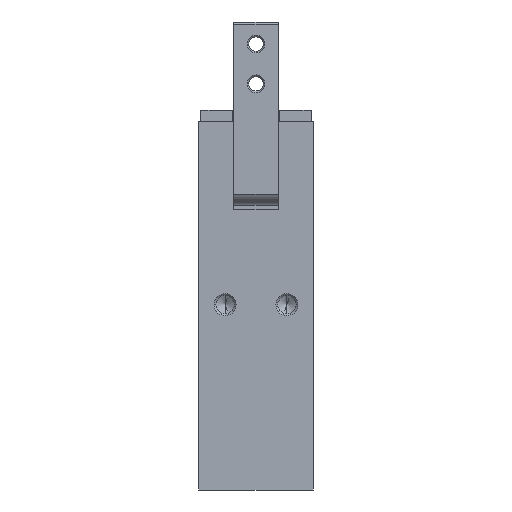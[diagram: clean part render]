
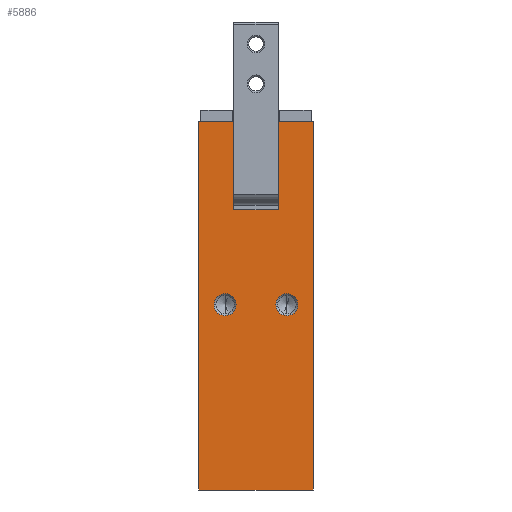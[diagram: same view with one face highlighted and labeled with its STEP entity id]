
A CAD part, left-side view. The second image highlights one B-rep face of the part: STEP entity #5886.
In plain terms, the highlighted planar face has unit normal (-1, 0, 0).
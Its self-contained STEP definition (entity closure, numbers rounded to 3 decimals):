
#75 = CARTESIAN_POINT ( 'NONE',  ( -24., 13., 83.5 ) ) ;
#144 = CARTESIAN_POINT ( 'NONE',  ( -24., 5., 63.5 ) ) ;
#200 = EDGE_CURVE ( 'NONE', #5626, #775, #5307, .T. ) ;
#240 = CARTESIAN_POINT ( 'NONE',  ( -24., 13., 83.5 ) ) ;
#255 = ORIENTED_EDGE ( 'NONE', *, *, #2802, .T. ) ;
#328 = VERTEX_POINT ( 'NONE', #596 ) ;
#348 = LINE ( 'NONE', #6237, #5611 ) ;
#354 = VECTOR ( 'NONE', #5600, 1000. ) ;
#395 = CARTESIAN_POINT ( 'NONE',  ( -24., 13., 83.5 ) ) ;
#448 = CARTESIAN_POINT ( 'NONE',  ( -24., -7., 39.5 ) ) ;
#501 = DIRECTION ( 'NONE',  ( 1., 0., 0. ) ) ;
#534 = ORIENTED_EDGE ( 'NONE', *, *, #3304, .T. ) ;
#596 = CARTESIAN_POINT ( 'NONE',  ( -24., 7., 44.5 ) ) ;
#637 = DIRECTION ( 'NONE',  ( 0., -1., 0. ) ) ;
#775 = VERTEX_POINT ( 'NONE', #448 ) ;
#836 = FACE_BOUND ( 'NONE', #1760, .T. ) ;
#848 = DIRECTION ( 'NONE',  ( 0., 0., -1. ) ) ;
#1043 = CARTESIAN_POINT ( 'NONE',  ( -24., -5., 83.5 ) ) ;
#1082 = LINE ( 'NONE', #6039, #4961 ) ;
#1130 = CARTESIAN_POINT ( 'NONE',  ( -24., 13., 83.5 ) ) ;
#1303 = CARTESIAN_POINT ( 'NONE',  ( -24., -7., 42. ) ) ;
#1375 = VERTEX_POINT ( 'NONE', #5341 ) ;
#1595 = FACE_OUTER_BOUND ( 'NONE', #4896, .T. ) ;
#1618 = CARTESIAN_POINT ( 'NONE',  ( -24., 7., 42. ) ) ;
#1643 = CARTESIAN_POINT ( 'NONE',  ( -24., -13., 83.5 ) ) ;
#1650 = AXIS2_PLACEMENT_3D ( 'NONE', #3781, #2737, #4775 ) ;
#1688 = DIRECTION ( 'NONE',  ( 0., 0., 1. ) ) ;
#1760 = EDGE_LOOP ( 'NONE', ( #4381, #534 ) ) ;
#1926 = CARTESIAN_POINT ( 'NONE',  ( -24., -13., 0. ) ) ;
#1933 = CARTESIAN_POINT ( 'NONE',  ( -24., -5., 83.5 ) ) ;
#1994 = CARTESIAN_POINT ( 'NONE',  ( -24., 13., 0. ) ) ;
#2057 = EDGE_CURVE ( 'NONE', #3441, #2094, #2503, .T. ) ;
#2094 = VERTEX_POINT ( 'NONE', #1926 ) ;
#2105 = DIRECTION ( 'NONE',  ( 0., 0., -1. ) ) ;
#2109 = DIRECTION ( 'NONE',  ( 0., 0., -1. ) ) ;
#2138 = FACE_BOUND ( 'NONE', #2806, .T. ) ;
#2189 = DIRECTION ( 'NONE',  ( 0., -1., 0. ) ) ;
#2231 = LINE ( 'NONE', #1043, #354 ) ;
#2279 = LINE ( 'NONE', #4940, #5820 ) ;
#2503 = LINE ( 'NONE', #1994, #6359 ) ;
#2558 = EDGE_CURVE ( 'NONE', #4975, #2094, #2897, .T. ) ;
#2643 = ORIENTED_EDGE ( 'NONE', *, *, #4400, .T. ) ;
#2737 = DIRECTION ( 'NONE',  ( 1., 0., 0. ) ) ;
#2779 = VERTEX_POINT ( 'NONE', #5041 ) ;
#2802 = EDGE_CURVE ( 'NONE', #775, #5626, #5810, .T. ) ;
#2806 = EDGE_LOOP ( 'NONE', ( #4763, #255 ) ) ;
#2837 = LINE ( 'NONE', #75, #4805 ) ;
#2897 = LINE ( 'NONE', #5145, #4626 ) ;
#2917 = EDGE_CURVE ( 'NONE', #328, #5836, #6481, .T. ) ;
#3040 = ORIENTED_EDGE ( 'NONE', *, *, #4855, .F. ) ;
#3304 = EDGE_CURVE ( 'NONE', #5836, #328, #3507, .T. ) ;
#3441 = VERTEX_POINT ( 'NONE', #4414 ) ;
#3507 = CIRCLE ( 'NONE', #4302, 2.5 ) ;
#3691 = ORIENTED_EDGE ( 'NONE', *, *, #2558, .F. ) ;
#3723 = VERTEX_POINT ( 'NONE', #240 ) ;
#3741 = ORIENTED_EDGE ( 'NONE', *, *, #5877, .T. ) ;
#3781 = CARTESIAN_POINT ( 'NONE',  ( -24., 7., 42. ) ) ;
#3915 = DIRECTION ( 'NONE',  ( 1., 0., 0. ) ) ;
#4084 = DIRECTION ( 'NONE',  ( 0., 0., -1. ) ) ;
#4095 = EDGE_CURVE ( 'NONE', #6362, #2779, #2231, .T. ) ;
#4302 = AXIS2_PLACEMENT_3D ( 'NONE', #1618, #5138, #6190 ) ;
#4339 = LINE ( 'NONE', #1130, #5288 ) ;
#4359 = CARTESIAN_POINT ( 'NONE',  ( -24., 7., 39.5 ) ) ;
#4376 = AXIS2_PLACEMENT_3D ( 'NONE', #395, #3915, #6435 ) ;
#4381 = ORIENTED_EDGE ( 'NONE', *, *, #2917, .T. ) ;
#4400 = EDGE_CURVE ( 'NONE', #4930, #1375, #348, .T. ) ;
#4414 = CARTESIAN_POINT ( 'NONE',  ( -24., 13., 0. ) ) ;
#4557 = CARTESIAN_POINT ( 'NONE',  ( -24., -7., 42. ) ) ;
#4626 = VECTOR ( 'NONE', #2109, 1000. ) ;
#4763 = ORIENTED_EDGE ( 'NONE', *, *, #200, .T. ) ;
#4775 = DIRECTION ( 'NONE',  ( 0., 0., -1. ) ) ;
#4805 = VECTOR ( 'NONE', #2189, 1000. ) ;
#4855 = EDGE_CURVE ( 'NONE', #6362, #4975, #1082, .T. ) ;
#4896 = EDGE_LOOP ( 'NONE', ( #2643, #6223, #5519, #6264, #3691, #3040, #5388, #3741 ) ) ;
#4912 = AXIS2_PLACEMENT_3D ( 'NONE', #4557, #501, #4084 ) ;
#4930 = VERTEX_POINT ( 'NONE', #144 ) ;
#4940 = CARTESIAN_POINT ( 'NONE',  ( -24., -5., 63.5 ) ) ;
#4961 = VECTOR ( 'NONE', #637, 1000. ) ;
#4975 = VERTEX_POINT ( 'NONE', #1643 ) ;
#4997 = DIRECTION ( 'NONE',  ( 0., -1., 0. ) ) ;
#5041 = CARTESIAN_POINT ( 'NONE',  ( -24., -5., 63.5 ) ) ;
#5138 = DIRECTION ( 'NONE',  ( 1., 0., 0. ) ) ;
#5145 = CARTESIAN_POINT ( 'NONE',  ( -24., -13., 83.5 ) ) ;
#5288 = VECTOR ( 'NONE', #2105, 1000. ) ;
#5307 = CIRCLE ( 'NONE', #6139, 2.5 ) ;
#5341 = CARTESIAN_POINT ( 'NONE',  ( -24., 5., 83.5 ) ) ;
#5388 = ORIENTED_EDGE ( 'NONE', *, *, #4095, .T. ) ;
#5476 = PLANE ( 'NONE',  #4376 ) ;
#5519 = ORIENTED_EDGE ( 'NONE', *, *, #6228, .T. ) ;
#5600 = DIRECTION ( 'NONE',  ( 0., 0., -1. ) ) ;
#5611 = VECTOR ( 'NONE', #1688, 1000. ) ;
#5626 = VERTEX_POINT ( 'NONE', #5812 ) ;
#5810 = CIRCLE ( 'NONE', #4912, 2.5 ) ;
#5812 = CARTESIAN_POINT ( 'NONE',  ( -24., -7., 44.5 ) ) ;
#5820 = VECTOR ( 'NONE', #6476, 1000. ) ;
#5836 = VERTEX_POINT ( 'NONE', #4359 ) ;
#5877 = EDGE_CURVE ( 'NONE', #2779, #4930, #2279, .T. ) ;
#5886 = ADVANCED_FACE ( 'NONE', ( #1595, #2138, #836 ), #5476, .F. ) ;
#6039 = CARTESIAN_POINT ( 'NONE',  ( -24., 13., 83.5 ) ) ;
#6139 = AXIS2_PLACEMENT_3D ( 'NONE', #1303, #6442, #848 ) ;
#6190 = DIRECTION ( 'NONE',  ( 0., 0., -1. ) ) ;
#6223 = ORIENTED_EDGE ( 'NONE', *, *, #6577, .F. ) ;
#6228 = EDGE_CURVE ( 'NONE', #3723, #3441, #4339, .T. ) ;
#6237 = CARTESIAN_POINT ( 'NONE',  ( -24., 5., 63.5 ) ) ;
#6264 = ORIENTED_EDGE ( 'NONE', *, *, #2057, .T. ) ;
#6359 = VECTOR ( 'NONE', #4997, 1000. ) ;
#6362 = VERTEX_POINT ( 'NONE', #1933 ) ;
#6435 = DIRECTION ( 'NONE',  ( 0., 1., 0. ) ) ;
#6442 = DIRECTION ( 'NONE',  ( 1., 0., 0. ) ) ;
#6476 = DIRECTION ( 'NONE',  ( 0., 1., 0. ) ) ;
#6481 = CIRCLE ( 'NONE', #1650, 2.5 ) ;
#6577 = EDGE_CURVE ( 'NONE', #3723, #1375, #2837, .T. ) ;
